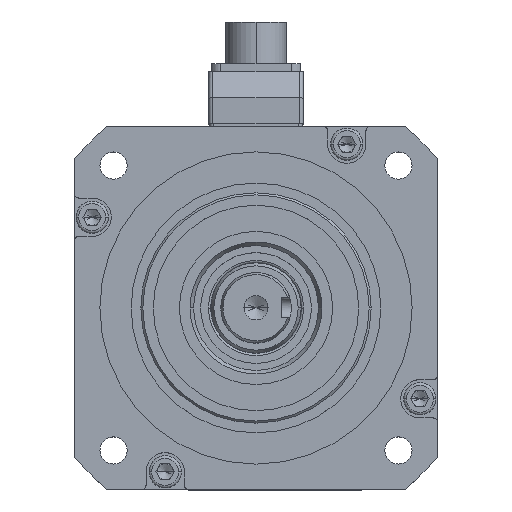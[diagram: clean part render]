
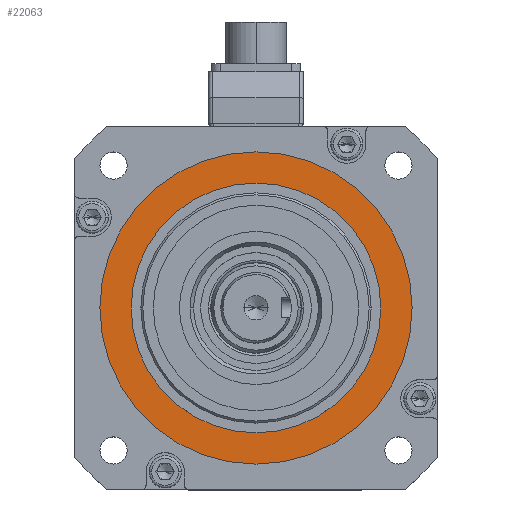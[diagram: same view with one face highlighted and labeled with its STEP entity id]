
A CAD part, top view. The second image highlights one B-rep face of the part: STEP entity #22063.
In plain terms, the highlighted planar face has unit normal (0, 0, 1).
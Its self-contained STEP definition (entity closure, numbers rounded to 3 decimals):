
#19057=CARTESIAN_POINT('',(0.,0.,20.));
#19058=DIRECTION('',(0.,0.,-1.));
#19059=DIRECTION('',(-1.,0.,0.));
#19060=AXIS2_PLACEMENT_3D('',#19057,#19058,#19059);
#19062=CARTESIAN_POINT('',(0.,0.,20.));
#19063=DIRECTION('',(0.,0.,-1.));
#19064=DIRECTION('',(1.,0.,0.));
#19065=AXIS2_PLACEMENT_3D('',#19062,#19063,#19064);
#19067=CARTESIAN_POINT('',(0.,0.,20.));
#19068=DIRECTION('',(0.,0.,1.));
#19069=DIRECTION('',(1.,0.,0.));
#19070=AXIS2_PLACEMENT_3D('',#19067,#19068,#19069);
#19072=CARTESIAN_POINT('',(0.,0.,20.));
#19073=DIRECTION('',(0.,0.,1.));
#19074=DIRECTION('',(-1.,0.,0.));
#19075=AXIS2_PLACEMENT_3D('',#19072,#19073,#19074);
#20329=CARTESIAN_POINT('',(-77.5,0.,20.));
#20330=VERTEX_POINT('',#20329);
#20331=CARTESIAN_POINT('',(77.5,0.,20.));
#20332=VERTEX_POINT('',#20331);
#20333=CARTESIAN_POINT('',(62.,0.,20.));
#20334=CARTESIAN_POINT('',(-62.,0.,20.));
#20335=VERTEX_POINT('',#20333);
#20336=VERTEX_POINT('',#20334);
#22048=CARTESIAN_POINT('',(0.,0.,20.));
#22049=DIRECTION('',(0.,0.,1.));
#22050=DIRECTION('',(1.,0.,0.));
#22051=AXIS2_PLACEMENT_3D('',#22048,#22049,#22050);
#22052=PLANE('',#22051);
#22053=ORIENTED_EDGE('',*,*,#22030,.T.);
#22054=ORIENTED_EDGE('',*,*,#22040,.T.);
#22055=EDGE_LOOP('',(#22053,#22054));
#22056=FACE_OUTER_BOUND('',#22055,.F.);
#22058=ORIENTED_EDGE('',*,*,#22057,.T.);
#22060=ORIENTED_EDGE('',*,*,#22059,.T.);
#22061=EDGE_LOOP('',(#22058,#22060));
#22062=FACE_BOUND('',#22061,.F.);
#22063=ADVANCED_FACE('',(#22056,#22062),#22052,.T.);
#19061=CIRCLE('',#19060,77.5);
#19066=CIRCLE('',#19065,77.5);
#19071=CIRCLE('',#19070,62.);
#19076=CIRCLE('',#19075,62.);
#22030=EDGE_CURVE('',#20330,#20332,#19061,.T.);
#22040=EDGE_CURVE('',#20332,#20330,#19066,.T.);
#22057=EDGE_CURVE('',#20335,#20336,#19071,.T.);
#22059=EDGE_CURVE('',#20336,#20335,#19076,.T.);
